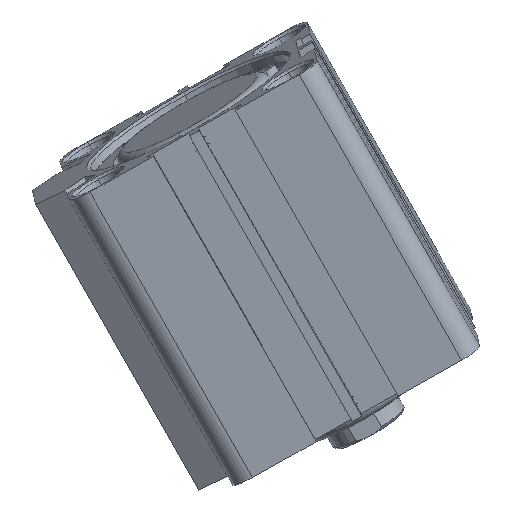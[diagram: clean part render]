
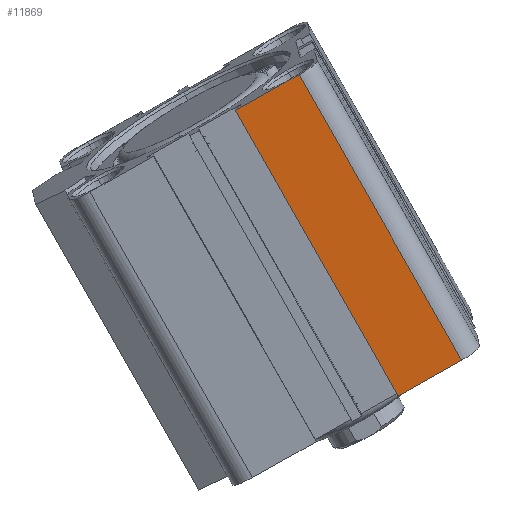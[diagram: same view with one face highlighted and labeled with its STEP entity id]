
A CAD part, left-side view. The second image highlights one B-rep face of the part: STEP entity #11869.
In plain terms, the highlighted planar face has unit normal (-0.987, -0.042, -0.158) as drawn and (-1, 0, 0) by its records, which use the part's own axes.
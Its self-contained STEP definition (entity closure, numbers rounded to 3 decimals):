
#278 = CARTESIAN_POINT ( 'NONE',  ( -26., -8.6, 61. ) ) ;
#1390 = ORIENTED_EDGE ( 'NONE', *, *, #2258, .T. ) ;
#2071 = LINE ( 'NONE', #11030, #9016 ) ;
#2258 = EDGE_CURVE ( 'NONE', #8026, #11934, #11013, .T. ) ;
#3004 = DIRECTION ( 'NONE',  ( 0., 1., 0. ) ) ;
#3489 = VERTEX_POINT ( 'NONE', #17614 ) ;
#3725 = FACE_OUTER_BOUND ( 'NONE', #18465, .T. ) ;
#6336 = CARTESIAN_POINT ( 'NONE',  ( -26., 0., 61. ) ) ;
#7027 = VECTOR ( 'NONE', #19833, 1000. ) ;
#7104 = DIRECTION ( 'NONE',  ( 0., 0., -1. ) ) ;
#7115 = CARTESIAN_POINT ( 'NONE',  ( -26., -22., 0. ) ) ;
#8026 = VERTEX_POINT ( 'NONE', #10714 ) ;
#9016 = VECTOR ( 'NONE', #3004, 1000. ) ;
#10521 = EDGE_CURVE ( 'NONE', #3489, #8026, #11341, .T. ) ;
#10714 = CARTESIAN_POINT ( 'NONE',  ( -26., -8.6, 61. ) ) ;
#11013 = LINE ( 'NONE', #278, #17877 ) ;
#11030 = CARTESIAN_POINT ( 'NONE',  ( -26., 0., 0. ) ) ;
#11039 = EDGE_CURVE ( 'NONE', #3489, #18233, #14304, .T. ) ;
#11341 = LINE ( 'NONE', #12465, #11506 ) ;
#11506 = VECTOR ( 'NONE', #15662, 1000. ) ;
#11869 = ADVANCED_FACE ( 'NONE', ( #3725 ), #19384, .T. ) ;
#11934 = VERTEX_POINT ( 'NONE', #17584 ) ;
#12465 = CARTESIAN_POINT ( 'NONE',  ( -26., 0., 61. ) ) ;
#12688 = DIRECTION ( 'NONE',  ( 0., 0., 1. ) ) ;
#14304 = LINE ( 'NONE', #18779, #7027 ) ;
#14568 = DIRECTION ( 'NONE',  ( -1., 0., 0. ) ) ;
#15662 = DIRECTION ( 'NONE',  ( 0., 1., 0. ) ) ;
#16140 = ORIENTED_EDGE ( 'NONE', *, *, #10521, .T. ) ;
#16628 = ORIENTED_EDGE ( 'NONE', *, *, #18026, .F. ) ;
#17584 = CARTESIAN_POINT ( 'NONE',  ( -26., -8.6, 0. ) ) ;
#17614 = CARTESIAN_POINT ( 'NONE',  ( -26., -22., 61. ) ) ;
#17778 = ORIENTED_EDGE ( 'NONE', *, *, #11039, .F. ) ;
#17877 = VECTOR ( 'NONE', #7104, 1000. ) ;
#18026 = EDGE_CURVE ( 'NONE', #18233, #11934, #2071, .T. ) ;
#18233 = VERTEX_POINT ( 'NONE', #7115 ) ;
#18465 = EDGE_LOOP ( 'NONE', ( #16628, #17778, #16140, #1390 ) ) ;
#18779 = CARTESIAN_POINT ( 'NONE',  ( -26., -22., 61. ) ) ;
#19384 = PLANE ( 'NONE',  #20498 ) ;
#19833 = DIRECTION ( 'NONE',  ( 0., 0., -1. ) ) ;
#20498 = AXIS2_PLACEMENT_3D ( 'NONE', #6336, #14568, #12688 ) ;
